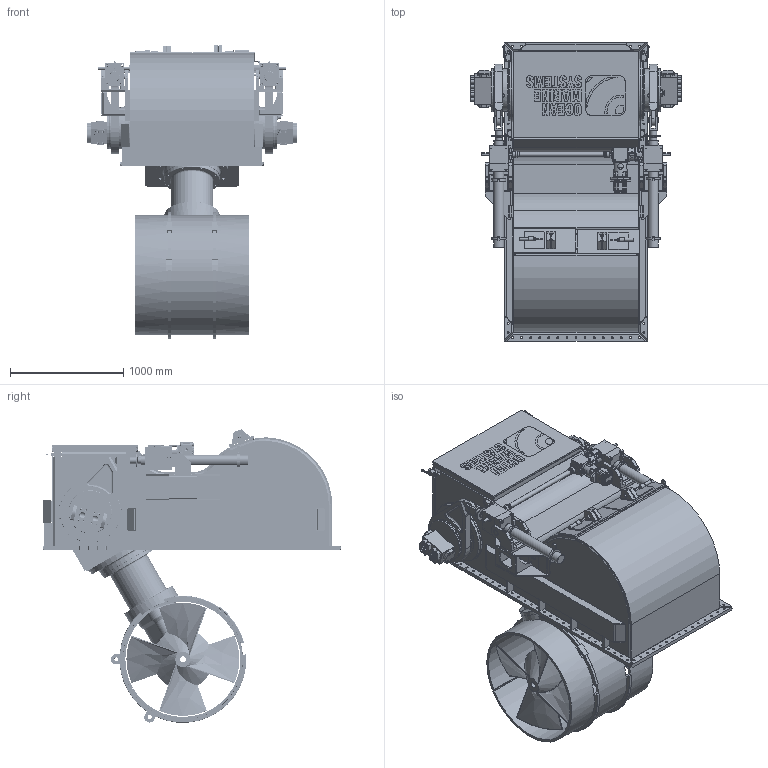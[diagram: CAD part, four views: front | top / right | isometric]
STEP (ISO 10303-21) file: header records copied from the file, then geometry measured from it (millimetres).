
FILE_DESCRIPTION(/* description */ (''),/* implementation_level */ '2;1');
FILE_NAME(/* name */ 'Q:\THRUSTERS\THRUSTER SALES & SUPPORT DOCS\THRUSTER Sales\H-S\H-1000-S\H-1000-S Deployed.stp',/* time_stamp */ '2021-01-26T13:01:22+00:00',/* author */ ('Barney.Webborn'),/* organization */ (''),/* preprocessor_version */ 'ST-DEVELOPER v17.2',/* originating_system */ 'Autodesk Inventor 2019',/* authorisation */ '');
FILE_SCHEMA (('AUTOMOTIVE_DESIGN { 1 0 10303 214 3 1 1 }'));
Length unit declared in the file: millimetre
Products named in the file (1): H-1000-S_Shrinkwrap_1
Bounding box: 1860 x 2635 x 2587.64 mm (x, y, z)
Volume: 507814011.5 mm3; surface area: 51093943.3 mm2
Topology: 16 solids, 16 shells, 6485 faces, 17307 edges, 11122 vertices
Faces by surface type: plane 3213, cylinder 1530, bspline 1142, cone 392, torus 160, sphere 48
Full cylindrical faces by diameter (mm): 3 x12, 7.2 x4, 7.5 x4, 8 x4, 10 x2, 12 x10, 15.8 x16, 16 x16, 16.5 x24, 16.75 x24, 17 x90, 17.29 x8, 17.5 x68, 18.376 x4, 20.5 x40, 21 x16, 23.75 x2, 24.5 x2, 25 x15, 25.5 x1, 26.25 x2, 28 x2, 28.5 x1, 29.425 x1, 30 x12, 31.25 x3, 31.42 x1, 31.67 x2, 32 x16, 32.195 x8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
Entity records: 304309 total; most frequent: CARTESIAN_POINT 140459, ORIENTED_EDGE 34332, DIRECTION 30310, EDGE_CURVE 17166, VERTEX_POINT 11122, AXIS2_PLACEMENT_3D 10395, LINE 9520, VECTOR 9520
